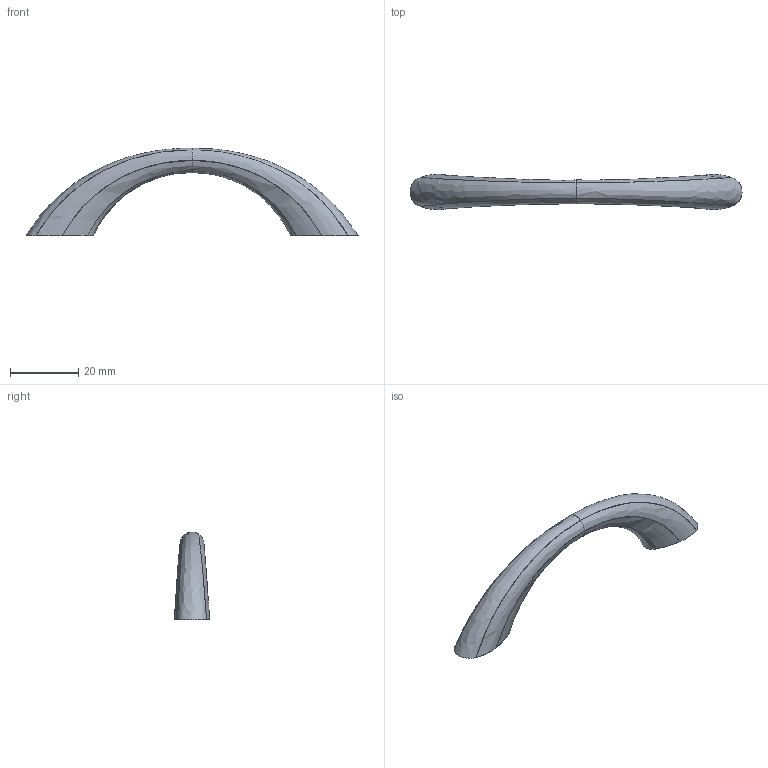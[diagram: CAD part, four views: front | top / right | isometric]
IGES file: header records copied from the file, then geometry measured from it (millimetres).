
Start section: C
Global section: file name: 0549-97.igs; native system: By Siemens PLM Incorporated; preprocessor: XPlus GENERIC/IGES 16.0.42; author: Author; organization: Title; date: 20260104.151021; units: millimetre
Bounding box: 97 x 10.29 x 25.7 mm (x, y, z)
Surface area: 3544.3 mm2 (no closed solid volume)
Topology: 0 solids, 0 shells, 20 faces, 108 edges, 108 vertices
Faces by surface type: bspline 20
